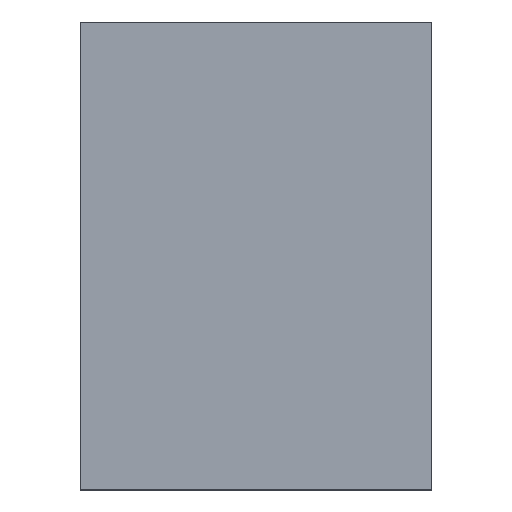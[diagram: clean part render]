
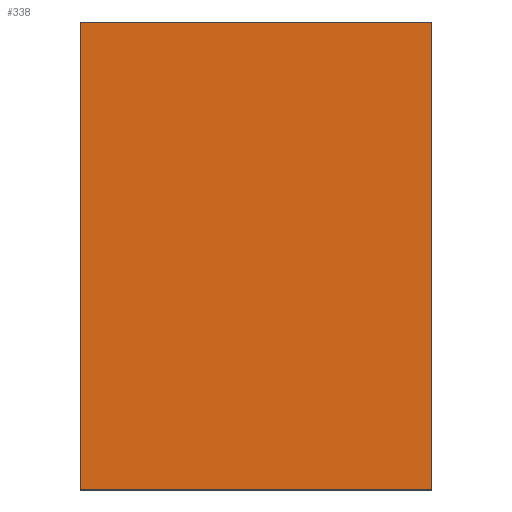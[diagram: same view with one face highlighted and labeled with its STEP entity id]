
A CAD part, top view. The second image highlights one B-rep face of the part: STEP entity #338.
In plain terms, the highlighted planar face has unit normal (0, 0, 1).
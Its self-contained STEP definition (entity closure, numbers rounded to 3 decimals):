
#24 = VERTEX_POINT('',#25);
#25 = CARTESIAN_POINT('',(49.5,104.,301.));
#32 = PLANE('',#33);
#33 = AXIS2_PLACEMENT_3D('',#34,#35,#36);
#34 = CARTESIAN_POINT('',(49.5,104.,287.));
#35 = DIRECTION('',(1.,0.,-0.));
#36 = DIRECTION('',(0.,0.,1.));
#44 = PLANE('',#45);
#45 = AXIS2_PLACEMENT_3D('',#46,#47,#48);
#46 = CARTESIAN_POINT('',(49.5,104.,287.));
#47 = DIRECTION('',(-0.,1.,0.));
#48 = DIRECTION('',(0.,0.,1.));
#85 = VERTEX_POINT('',#86);
#86 = CARTESIAN_POINT('',(49.5,277.,301.));
#100 = PLANE('',#101);
#101 = AXIS2_PLACEMENT_3D('',#102,#103,#104);
#102 = CARTESIAN_POINT('',(49.5,277.,287.));
#103 = DIRECTION('',(-0.,1.,0.));
#104 = DIRECTION('',(0.,0.,1.));
#112 = EDGE_CURVE('',#24,#85,#113,.T.);
#113 = SURFACE_CURVE('',#114,(#118,#125),.PCURVE_S1.);
#114 = LINE('',#115,#116);
#115 = CARTESIAN_POINT('',(49.5,104.,301.));
#116 = VECTOR('',#117,1.);
#117 = DIRECTION('',(-0.,1.,0.));
#118 = PCURVE('',#32,#119);
#119 = DEFINITIONAL_REPRESENTATION('',(#120),#124);
#120 = LINE('',#121,#122);
#121 = CARTESIAN_POINT('',(14.,0.));
#122 = VECTOR('',#123,1.);
#123 = DIRECTION('',(0.,-1.));
#124 = ( GEOMETRIC_REPRESENTATION_CONTEXT(2) 
PARAMETRIC_REPRESENTATION_CONTEXT() REPRESENTATION_CONTEXT('2D SPACE',''
  ) );
#125 = PCURVE('',#126,#131);
#126 = PLANE('',#127);
#127 = AXIS2_PLACEMENT_3D('',#128,#129,#130);
#128 = CARTESIAN_POINT('',(49.5,104.,301.));
#129 = DIRECTION('',(0.,0.,1.));
#130 = DIRECTION('',(1.,0.,-0.));
#131 = DEFINITIONAL_REPRESENTATION('',(#132),#136);
#132 = LINE('',#133,#134);
#133 = CARTESIAN_POINT('',(0.,0.));
#134 = VECTOR('',#135,1.);
#135 = DIRECTION('',(0.,1.));
#136 = ( GEOMETRIC_REPRESENTATION_CONTEXT(2) 
PARAMETRIC_REPRESENTATION_CONTEXT() REPRESENTATION_CONTEXT('2D SPACE',''
  ) );
#144 = VERTEX_POINT('',#145);
#145 = CARTESIAN_POINT('',(179.5,104.,301.));
#152 = PLANE('',#153);
#153 = AXIS2_PLACEMENT_3D('',#154,#155,#156);
#154 = CARTESIAN_POINT('',(179.5,104.,287.));
#155 = DIRECTION('',(1.,0.,-0.));
#156 = DIRECTION('',(0.,0.,1.));
#195 = VERTEX_POINT('',#196);
#196 = CARTESIAN_POINT('',(179.5,277.,301.));
#217 = EDGE_CURVE('',#144,#195,#218,.T.);
#218 = SURFACE_CURVE('',#219,(#223,#230),.PCURVE_S1.);
#219 = LINE('',#220,#221);
#220 = CARTESIAN_POINT('',(179.5,104.,301.));
#221 = VECTOR('',#222,1.);
#222 = DIRECTION('',(-0.,1.,0.));
#223 = PCURVE('',#152,#224);
#224 = DEFINITIONAL_REPRESENTATION('',(#225),#229);
#225 = LINE('',#226,#227);
#226 = CARTESIAN_POINT('',(14.,0.));
#227 = VECTOR('',#228,1.);
#228 = DIRECTION('',(0.,-1.));
#229 = ( GEOMETRIC_REPRESENTATION_CONTEXT(2) 
PARAMETRIC_REPRESENTATION_CONTEXT() REPRESENTATION_CONTEXT('2D SPACE',''
  ) );
#230 = PCURVE('',#126,#231);
#231 = DEFINITIONAL_REPRESENTATION('',(#232),#236);
#232 = LINE('',#233,#234);
#233 = CARTESIAN_POINT('',(130.,0.));
#234 = VECTOR('',#235,1.);
#235 = DIRECTION('',(0.,1.));
#236 = ( GEOMETRIC_REPRESENTATION_CONTEXT(2) 
PARAMETRIC_REPRESENTATION_CONTEXT() REPRESENTATION_CONTEXT('2D SPACE',''
  ) );
#263 = EDGE_CURVE('',#24,#144,#264,.T.);
#264 = SURFACE_CURVE('',#265,(#269,#276),.PCURVE_S1.);
#265 = LINE('',#266,#267);
#266 = CARTESIAN_POINT('',(49.5,104.,301.));
#267 = VECTOR('',#268,1.);
#268 = DIRECTION('',(1.,0.,-0.));
#269 = PCURVE('',#44,#270);
#270 = DEFINITIONAL_REPRESENTATION('',(#271),#275);
#271 = LINE('',#272,#273);
#272 = CARTESIAN_POINT('',(14.,0.));
#273 = VECTOR('',#274,1.);
#274 = DIRECTION('',(0.,1.));
#275 = ( GEOMETRIC_REPRESENTATION_CONTEXT(2) 
PARAMETRIC_REPRESENTATION_CONTEXT() REPRESENTATION_CONTEXT('2D SPACE',''
  ) );
#276 = PCURVE('',#126,#277);
#277 = DEFINITIONAL_REPRESENTATION('',(#278),#282);
#278 = LINE('',#279,#280);
#279 = CARTESIAN_POINT('',(0.,0.));
#280 = VECTOR('',#281,1.);
#281 = DIRECTION('',(1.,0.));
#282 = ( GEOMETRIC_REPRESENTATION_CONTEXT(2) 
PARAMETRIC_REPRESENTATION_CONTEXT() REPRESENTATION_CONTEXT('2D SPACE',''
  ) );
#310 = EDGE_CURVE('',#85,#195,#311,.T.);
#311 = SURFACE_CURVE('',#312,(#316,#323),.PCURVE_S1.);
#312 = LINE('',#313,#314);
#313 = CARTESIAN_POINT('',(49.5,277.,301.));
#314 = VECTOR('',#315,1.);
#315 = DIRECTION('',(1.,0.,-0.));
#316 = PCURVE('',#100,#317);
#317 = DEFINITIONAL_REPRESENTATION('',(#318),#322);
#318 = LINE('',#319,#320);
#319 = CARTESIAN_POINT('',(14.,0.));
#320 = VECTOR('',#321,1.);
#321 = DIRECTION('',(0.,1.));
#322 = ( GEOMETRIC_REPRESENTATION_CONTEXT(2) 
PARAMETRIC_REPRESENTATION_CONTEXT() REPRESENTATION_CONTEXT('2D SPACE',''
  ) );
#323 = PCURVE('',#126,#324);
#324 = DEFINITIONAL_REPRESENTATION('',(#325),#329);
#325 = LINE('',#326,#327);
#326 = CARTESIAN_POINT('',(0.,173.));
#327 = VECTOR('',#328,1.);
#328 = DIRECTION('',(1.,0.));
#329 = ( GEOMETRIC_REPRESENTATION_CONTEXT(2) 
PARAMETRIC_REPRESENTATION_CONTEXT() REPRESENTATION_CONTEXT('2D SPACE',''
  ) );
#338 = ADVANCED_FACE('',(#339),#126,.T.);
#339 = FACE_BOUND('',#340,.T.);
#340 = EDGE_LOOP('',(#341,#342,#343,#344));
#341 = ORIENTED_EDGE('',*,*,#112,.F.);
#342 = ORIENTED_EDGE('',*,*,#263,.T.);
#343 = ORIENTED_EDGE('',*,*,#217,.T.);
#344 = ORIENTED_EDGE('',*,*,#310,.F.);
